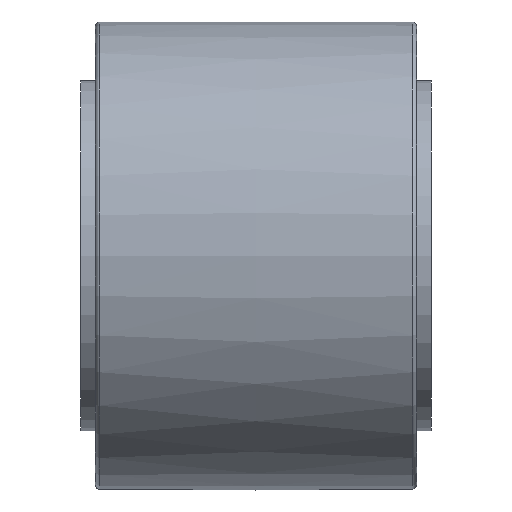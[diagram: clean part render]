
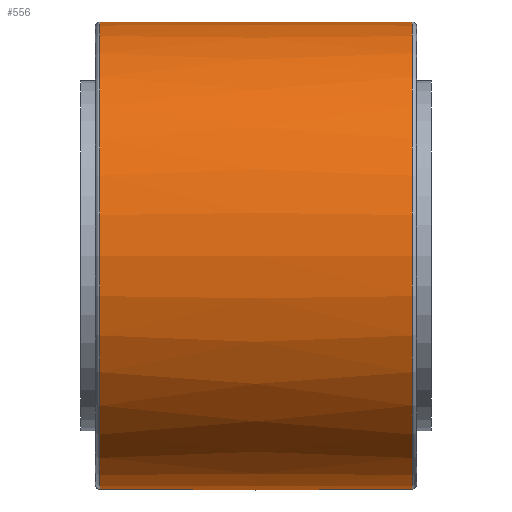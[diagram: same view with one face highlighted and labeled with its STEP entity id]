
A CAD part, front view. The second image highlights one B-rep face of the part: STEP entity #556.
In plain terms, the highlighted free-form (B-spline) face has degree [2, 2] with [3, 9] control points.
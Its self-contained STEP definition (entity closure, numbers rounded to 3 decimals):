
#183=(
BOUNDED_CURVE()
B_SPLINE_CURVE(2,(#1160,#1161,#1162),.UNSPECIFIED.,.F.,.F.)
B_SPLINE_CURVE_WITH_KNOTS((3,3),(-0.011,0.011),
 .UNSPECIFIED.)
CURVE()
GEOMETRIC_REPRESENTATION_ITEM()
RATIONAL_B_SPLINE_CURVE((1.,1.,1.))
REPRESENTATION_ITEM('')
);
#184=(
BOUNDED_SURFACE()
B_SPLINE_SURFACE(2,2,((#1129,#1130,#1131,#1132,#1133,#1134,#1135,#1136,
#1137),(#1138,#1139,#1140,#1141,#1142,#1143,#1144,#1145,#1146),(#1147,#1148,
#1149,#1150,#1151,#1152,#1153,#1154,#1155)),.UNSPECIFIED.,.F.,.T.,.F.)
B_SPLINE_SURFACE_WITH_KNOTS((3,3),(3,2,2,2,3),(-0.011,0.011),
(-3.142,-1.571,0.,1.571,3.142),
 .UNSPECIFIED.)
GEOMETRIC_REPRESENTATION_ITEM()
RATIONAL_B_SPLINE_SURFACE(((1.,0.707,1.,0.707,1.,
0.707,1.,0.707,1.),(1.,0.707,
1.,0.707,1.,0.707,1.,
0.707,1.),(1.,0.707,1.,0.707,
1.,0.707,1.,0.707,1.)))
REPRESENTATION_ITEM('')
SURFACE()
);
#238=CIRCLE('',#701,8.002);
#239=CIRCLE('',#702,8.002);
#240=CIRCLE('',#703,8.002);
#241=CIRCLE('',#704,8.002);
#307=FACE_OUTER_BOUND('',#362,.T.);
#362=EDGE_LOOP('',(#497,#498,#499,#500,#501,#502));
#404=VERTEX_POINT('',#1125);
#405=VERTEX_POINT('',#1126);
#406=VERTEX_POINT('',#1156);
#407=VERTEX_POINT('',#1157);
#438=EDGE_CURVE('',#404,#405,#238,.T.);
#439=EDGE_CURVE('',#405,#404,#239,.T.);
#440=EDGE_CURVE('',#406,#407,#240,.T.);
#441=EDGE_CURVE('',#407,#406,#241,.T.);
#442=EDGE_CURVE('',#407,#405,#183,.T.);
#497=ORIENTED_EDGE('',*,*,#440,.F.);
#498=ORIENTED_EDGE('',*,*,#441,.F.);
#499=ORIENTED_EDGE('',*,*,#442,.T.);
#500=ORIENTED_EDGE('',*,*,#438,.F.);
#501=ORIENTED_EDGE('',*,*,#439,.F.);
#502=ORIENTED_EDGE('',*,*,#442,.F.);
#556=ADVANCED_FACE('',(#307),#184,.F.);
#701=AXIS2_PLACEMENT_3D('',#1127,#861,#862);
#702=AXIS2_PLACEMENT_3D('',#1128,#863,#864);
#703=AXIS2_PLACEMENT_3D('',#1158,#865,#866);
#704=AXIS2_PLACEMENT_3D('',#1159,#867,#868);
#861=DIRECTION('center_axis',(-1.,0.,0.));
#862=DIRECTION('ref_axis',(0.,-1.,0.));
#863=DIRECTION('center_axis',(-1.,0.,0.));
#864=DIRECTION('ref_axis',(0.,-1.,0.));
#865=DIRECTION('center_axis',(1.,0.,0.));
#866=DIRECTION('ref_axis',(0.,-1.,0.));
#867=DIRECTION('center_axis',(1.,0.,0.));
#868=DIRECTION('ref_axis',(0.,-1.,0.));
#1125=CARTESIAN_POINT('',(-5.352,8.002,0.));
#1126=CARTESIAN_POINT('',(-5.352,0.,8.002));
#1127=CARTESIAN_POINT('Origin',(-5.352,0.,
0.));
#1128=CARTESIAN_POINT('Origin',(-5.352,0.,
0.));
#1129=CARTESIAN_POINT('Ctrl Pts',(-5.352,0.,
8.002));
#1130=CARTESIAN_POINT('Ctrl Pts',(-5.352,-8.002,8.002));
#1131=CARTESIAN_POINT('Ctrl Pts',(-5.352,-8.002,0.));
#1132=CARTESIAN_POINT('Ctrl Pts',(-5.352,-8.002,-8.002));
#1133=CARTESIAN_POINT('Ctrl Pts',(-5.352,0.,
-8.002));
#1134=CARTESIAN_POINT('Ctrl Pts',(-5.352,8.002,-8.002));
#1135=CARTESIAN_POINT('Ctrl Pts',(-5.352,8.002,0.));
#1136=CARTESIAN_POINT('Ctrl Pts',(-5.352,8.002,8.002));
#1137=CARTESIAN_POINT('Ctrl Pts',(-5.352,0.,
8.002));
#1138=CARTESIAN_POINT('Ctrl Pts',(0.,0.,
8.059));
#1139=CARTESIAN_POINT('Ctrl Pts',(0.,-8.059,
8.059));
#1140=CARTESIAN_POINT('Ctrl Pts',(0.,-8.059,
0.));
#1141=CARTESIAN_POINT('Ctrl Pts',(0.,-8.059,
-8.059));
#1142=CARTESIAN_POINT('Ctrl Pts',(0.,0.,
-8.059));
#1143=CARTESIAN_POINT('Ctrl Pts',(0.,8.059,
-8.059));
#1144=CARTESIAN_POINT('Ctrl Pts',(0.,8.059,
0.));
#1145=CARTESIAN_POINT('Ctrl Pts',(0.,8.059,
8.059));
#1146=CARTESIAN_POINT('Ctrl Pts',(0.,0.,
8.059));
#1147=CARTESIAN_POINT('Ctrl Pts',(5.352,0.,
8.002));
#1148=CARTESIAN_POINT('Ctrl Pts',(5.352,-8.002,8.002));
#1149=CARTESIAN_POINT('Ctrl Pts',(5.352,-8.002,0.));
#1150=CARTESIAN_POINT('Ctrl Pts',(5.352,-8.002,-8.002));
#1151=CARTESIAN_POINT('Ctrl Pts',(5.352,0.,
-8.002));
#1152=CARTESIAN_POINT('Ctrl Pts',(5.352,8.002,-8.002));
#1153=CARTESIAN_POINT('Ctrl Pts',(5.352,8.002,0.));
#1154=CARTESIAN_POINT('Ctrl Pts',(5.352,8.002,8.002));
#1155=CARTESIAN_POINT('Ctrl Pts',(5.352,0.,
8.002));
#1156=CARTESIAN_POINT('',(5.352,8.002,0.));
#1157=CARTESIAN_POINT('',(5.352,0.,8.002));
#1158=CARTESIAN_POINT('Origin',(5.352,0.,0.));
#1159=CARTESIAN_POINT('Origin',(5.352,0.,0.));
#1160=CARTESIAN_POINT('Ctrl Pts',(5.352,0.,
8.002));
#1161=CARTESIAN_POINT('Ctrl Pts',(0.,0.,
8.059));
#1162=CARTESIAN_POINT('Ctrl Pts',(-5.352,0.,
8.002));
